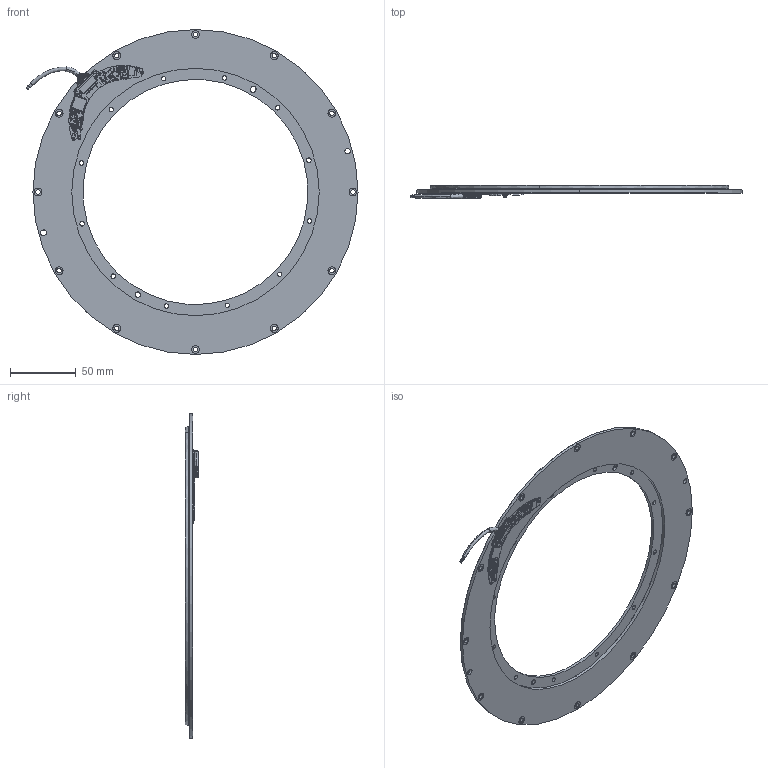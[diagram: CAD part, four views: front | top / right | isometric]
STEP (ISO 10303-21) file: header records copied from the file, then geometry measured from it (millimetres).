
FILE_DESCRIPTION (( 'STEP AP214' ), '1' );
FILE_NAME ('VLX-247.STEP', '2025-03-24T08:07:30', ( '' ), ( '' ), 'SwSTEP 2.0', 'SolidWorks 2022', '' );
FILE_SCHEMA (( 'AUTOMOTIVE_DESIGN' ));
Length unit declared in the file: millimetre
Products named in the file (8): PB-00456-00; VLX-60-QR Cable; DF13-10P-1.25H; PB-00116-01; PB-00115-01; DF13-10S-1.25C; KMR711NGULCLFS; VLX-247
Assembly tree (7 placements, depth 2):
  VLX-247
    PB-00115-01
    PB-00116-01
    PB-00456-00
    KMR711NGULCLFS
    DF13-10P-1.25H
    DF13-10S-1.25C
    VLX-60-QR Cable
Bounding box: 252.96 x 10.2 x 247.65 mm (x, y, z)
Volume: 91047.4 mm3; surface area: 86684.6 mm2
Topology: 121 solids, 121 shells, 5089 faces, 12611 edges, 8354 vertices
Faces by surface type: plane 3389, cylinder 1630, bspline 55, cone 15
Entity records: 202727 total; most frequent: CARTESIAN_POINT 31757, DIRECTION 26022, ORIENTED_EDGE 25222, EDGE_CURVE 12611, LINE 9068, VECTOR 9068, AXIS2_PLACEMENT_3D 8477, VERTEX_POINT 8354
